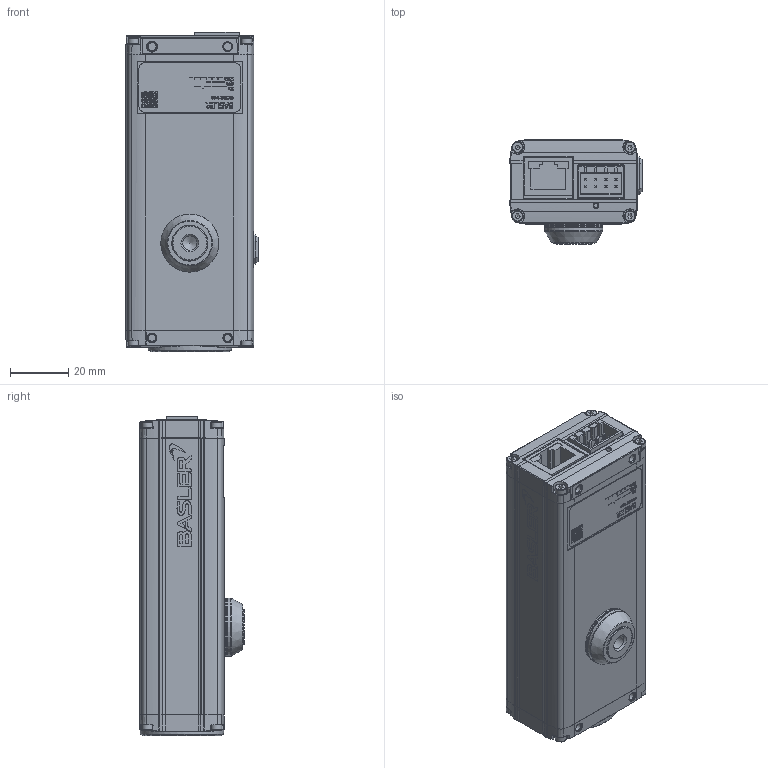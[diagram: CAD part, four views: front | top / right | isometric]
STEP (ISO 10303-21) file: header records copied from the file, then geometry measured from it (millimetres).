
FILE_DESCRIPTION((''),'2;1');
FILE_NAME('C:\cad\PSP2011Client\Work\146675917551IP01885302.stp','2016-06-24T11:07:17',(''),(''),'Autodesk Inventor 2011','Autodesk Inventor 2011','');
FILE_SCHEMA(('AUTOMOTIVE_DESIGN { 1 0 10303 214 1 1 1 1 }'));
Length unit declared in the file: millimetre
Products named in the file (1): 146675917551IP01885302
Bounding box: 45.5 x 35.98 x 109.75 mm (x, y, z)
Volume: 127748.5 mm3; surface area: 21753.2 mm2
Topology: 1 solids, 13 shells, 1947 faces, 5677 edges, 3818 vertices
Faces by surface type: plane 1296, bspline 341, cylinder 188, cone 68, torus 54
Full cylindrical faces by diameter (mm): 1.57 x2, 2 x9, 2.3 x8, 2.46 x4, 2.765 x4, 3.3 x8, 3.8 x9, 4.918 x1, 12 x1, 15.7 x1, 16.9 x1, 17 x1, 20 x3, 24.536 x1, 25 x1
Entity records: 88579 total; most frequent: CARTESIAN_POINT 37716, ORIENTED_EDGE 11052, DIRECTION 8580, EDGE_CURVE 5526, VECTOR 3800, LINE 3800, VERTEX_POINT 3780, AXIS2_PLACEMENT_3D 2390
